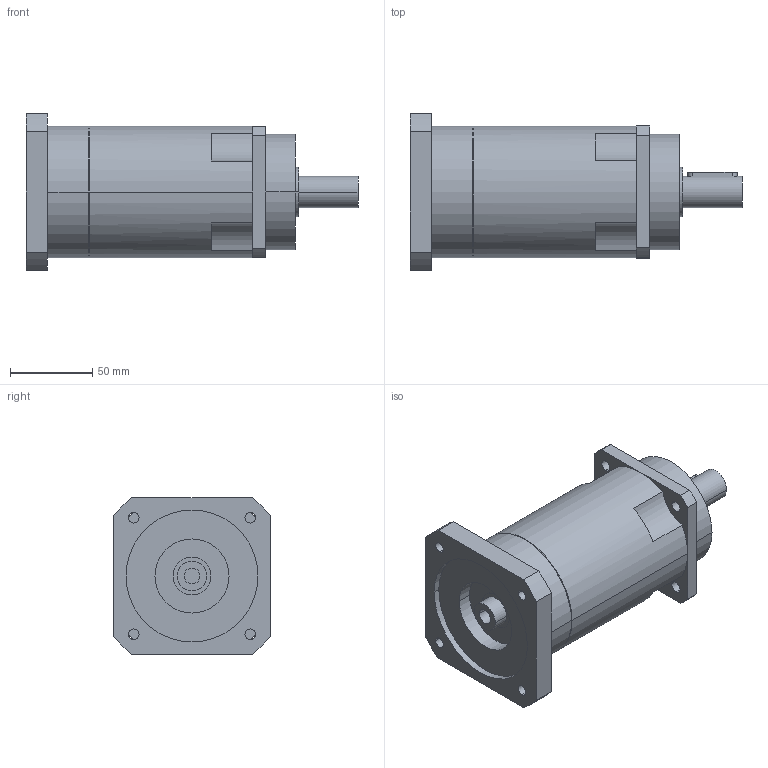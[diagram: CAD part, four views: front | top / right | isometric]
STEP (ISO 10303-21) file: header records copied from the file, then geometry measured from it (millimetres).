
FILE_DESCRIPTION(('CoCreate Modeling STEP Export'),'2;1');
FILE_NAME('GPR100_ig-48-64-80-100-120-144-180-216_19_B5_9.52_P06.stp','2014-08-26T11:57:39',(''),(''),'CoCreate Modeling STEP processor for AP214 (Solid Model)','CoCreate Modeling 16.00C 25-Feb-2009 (C) Parametric Technology GmbH','');
FILE_SCHEMA(('AUTOMOTIVE_DESIGN { 1 0 10303 214 1 1 1 1 }'));
Length unit declared in the file: millimetre
Products named in the file (2): GPR100_ig-48-64-80-100-120-144-180-216_19_B5_9.52_P06
Assembly tree (1 placements, depth 2):
  GPR100_ig-48-64-80-100-120-144-180-216_19_B5_9.52_P06
    GPR100_ig-48-64-80-100-120-144-180-216_19_B5_9.52_P06
Bounding box: 201.4 x 95 x 95 mm (x, y, z)
Volume: 826042.9 mm3; surface area: 71101.7 mm2
Topology: 1 solids, 1 shells, 89 faces, 245 edges, 167 vertices
Faces by surface type: cylinder 52, plane 31, cone 6
Entity records: 2602 total; most frequent: ORIENTED_EDGE 486, CARTESIAN_POINT 472, DIRECTION 386, EDGE_CURVE 243, VERTEX_POINT 167, AXIS2_PLACEMENT_3D 145, EDGE_LOOP 116, VECTOR 96
